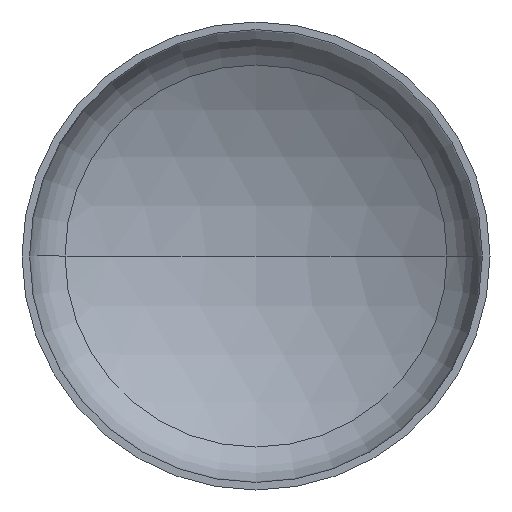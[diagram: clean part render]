
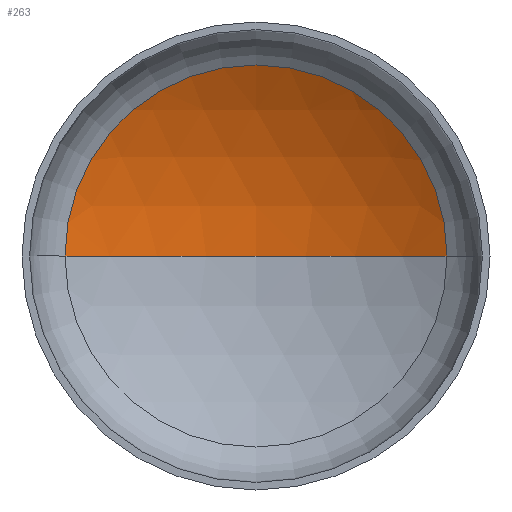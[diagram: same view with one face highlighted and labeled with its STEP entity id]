
A CAD part, front view. The second image highlights one B-rep face of the part: STEP entity #263.
In plain terms, the highlighted spherical face has radius 4800 mm.
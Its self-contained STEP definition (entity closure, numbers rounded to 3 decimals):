
#13 = EDGE_LOOP ( 'NONE', ( #49, #395, #375 ) ) ;
#42 = AXIS2_PLACEMENT_3D ( 'NONE', #154, #115, #245 ) ;
#49 = ORIENTED_EDGE ( 'NONE', *, *, #150, .F. ) ;
#59 = VERTEX_POINT ( 'NONE', #97 ) ;
#73 = CARTESIAN_POINT ( 'NONE',  ( -2448.929, 895.555, 0. ) ) ;
#79 = CIRCLE ( 'NONE', #80, 4800. ) ;
#80 = AXIS2_PLACEMENT_3D ( 'NONE', #183, #368, #214 ) ;
#87 = AXIS2_PLACEMENT_3D ( 'NONE', #212, #390, #241 ) ;
#90 = AXIS2_PLACEMENT_3D ( 'NONE', #291, #110, #312 ) ;
#97 = CARTESIAN_POINT ( 'NONE',  ( 0., 1567.269, 0. ) ) ;
#110 = DIRECTION ( 'NONE',  ( 0., 0., -1. ) ) ;
#115 = DIRECTION ( 'NONE',  ( 0., 0., -1. ) ) ;
#143 = EDGE_CURVE ( 'NONE', #145, #186, #311, .T. ) ;
#145 = VERTEX_POINT ( 'NONE', #181 ) ;
#146 = EDGE_CURVE ( 'NONE', #59, #145, #255, .T. ) ;
#150 = EDGE_CURVE ( 'NONE', #59, #186, #79, .T. ) ;
#154 = CARTESIAN_POINT ( 'NONE',  ( 0., -3232.731, 0. ) ) ;
#181 = CARTESIAN_POINT ( 'NONE',  ( 2448.929, 895.555, 0. ) ) ;
#183 = CARTESIAN_POINT ( 'NONE',  ( 0., -3232.731, 0. ) ) ;
#186 = VERTEX_POINT ( 'NONE', #73 ) ;
#212 = CARTESIAN_POINT ( 'NONE',  ( 0., 895.555, 0. ) ) ;
#214 = DIRECTION ( 'NONE',  ( 1., 0., 0. ) ) ;
#241 = DIRECTION ( 'NONE',  ( 1., 0., 0. ) ) ;
#245 = DIRECTION ( 'NONE',  ( -1., 0., 0. ) ) ;
#255 = CIRCLE ( 'NONE', #90, 4800. ) ;
#263 = ADVANCED_FACE ( 'NONE', ( #287 ), #356, .F. ) ;
#287 = FACE_OUTER_BOUND ( 'NONE', #13, .T. ) ;
#291 = CARTESIAN_POINT ( 'NONE',  ( 0., -3232.731, 0. ) ) ;
#311 = CIRCLE ( 'NONE', #87, 2448.929 ) ;
#312 = DIRECTION ( 'NONE',  ( -1., 0., 0. ) ) ;
#356 = SPHERICAL_SURFACE ( 'NONE', #42, 4800. ) ;
#368 = DIRECTION ( 'NONE',  ( 0., 0., 1. ) ) ;
#375 = ORIENTED_EDGE ( 'NONE', *, *, #143, .T. ) ;
#390 = DIRECTION ( 'NONE',  ( 0., -1., 0. ) ) ;
#395 = ORIENTED_EDGE ( 'NONE', *, *, #146, .T. ) ;
